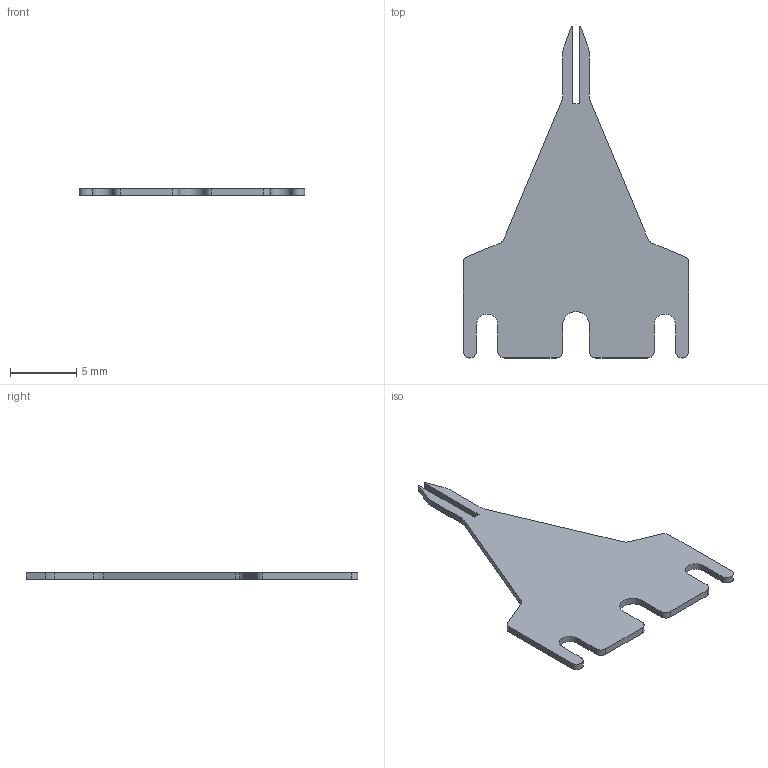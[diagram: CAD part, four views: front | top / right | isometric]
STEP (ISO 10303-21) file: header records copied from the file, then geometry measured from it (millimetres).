
FILE_DESCRIPTION (( 'STEP AP214' ), '1' );
FILE_NAME ('YGPU-P02 峚標ヵ-(諦誧換菰).STEP', '2026-03-23T03:34:51', ( '' ), ( '' ), 'SwSTEP 2.0', 'SolidWorks 2022', '' );
FILE_SCHEMA (( 'AUTOMOTIVE_DESIGN' ));
Length unit declared in the file: millimetre
Products named in the file (1): YGPU-P02 微夹钳-(客户传递)
Bounding box: 17 x 25 x 0.5 mm (x, y, z)
Volume: 102.4 mm3; surface area: 460.3 mm2
Topology: 1 solids, 1 shells, 44 faces, 126 edges, 84 vertices
Faces by surface type: plane 25, cylinder 19
Entity records: 1482 total; most frequent: CARTESIAN_POINT 255, DIRECTION 254, ORIENTED_EDGE 252, EDGE_CURVE 126, VECTOR 88, LINE 88, VERTEX_POINT 84, AXIS2_PLACEMENT_3D 83
